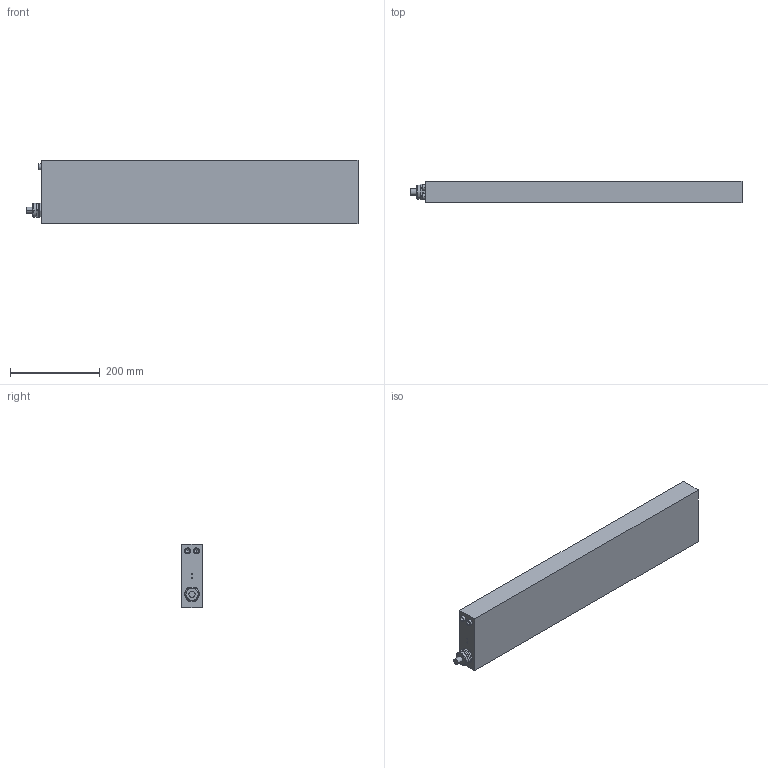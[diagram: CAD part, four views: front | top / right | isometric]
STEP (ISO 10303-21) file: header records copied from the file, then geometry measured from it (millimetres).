
FILE_DESCRIPTION (( 'STEP AP214' ), '1' );
FILE_NAME ('8-76-0015 M10B31A2 LMF34.STEP', '2011-05-17T09:12:03', ( 'test' ), ( '' ), 'SwSTEP 2.0', 'SolidWorks 2010', '' );
FILE_SCHEMA (( 'AUTOMOTIVE_DESIGN' ));
Length unit declared in the file: millimetre
Products named in the file (1): 8-76-0015 M10B31A2 LMF34
Bounding box: 739 x 46.7 x 141 mm (x, y, z)
Volume: 4643235.8 mm3; surface area: 287295.9 mm2
Topology: 1 solids, 1 shells, 133 faces, 326 edges, 182 vertices
Faces by surface type: cylinder 50, cone 44, plane 37, torus 2
Entity records: 5091 total; most frequent: CARTESIAN_POINT 998, DIRECTION 658, ORIENTED_EDGE 572, EDGE_CURVE 286, AXIS2_PLACEMENT_3D 240, VERTEX_POINT 182, LINE 178, VECTOR 178
